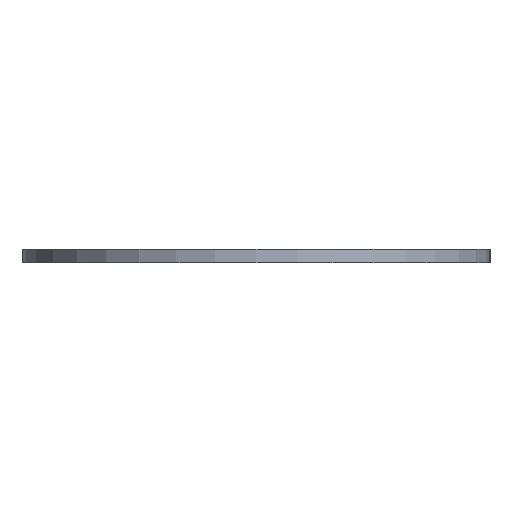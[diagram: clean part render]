
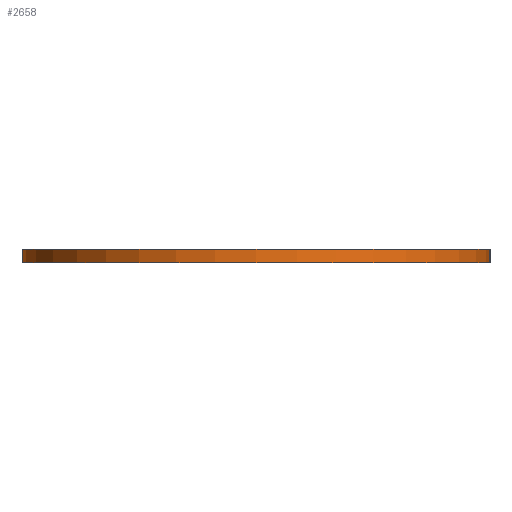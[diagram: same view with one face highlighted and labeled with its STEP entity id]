
A CAD part, left-side view. The second image highlights one B-rep face of the part: STEP entity #2658.
In plain terms, the highlighted cylindrical face has radius 54 mm (diameter 108 mm), a partial arc.
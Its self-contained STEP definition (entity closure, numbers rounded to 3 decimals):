
#60=CIRCLE('',#2832,54.);
#142=CIRCLE('',#2915,54.);
#162=CYLINDRICAL_SURFACE('',#2936,54.);
#570=ORIENTED_EDGE('',*,*,#1154,.F.);
#571=ORIENTED_EDGE('',*,*,#1198,.F.);
#572=ORIENTED_EDGE('',*,*,#995,.T.);
#573=ORIENTED_EDGE('',*,*,#1199,.T.);
#995=EDGE_CURVE('',#1338,#1337,#60,.T.);
#1154=EDGE_CURVE('',#1496,#1497,#142,.T.);
#1198=EDGE_CURVE('',#1338,#1496,#1678,.T.);
#1199=EDGE_CURVE('',#1337,#1497,#1679,.T.);
#1337=VERTEX_POINT('',#3954);
#1338=VERTEX_POINT('',#3956);
#1496=VERTEX_POINT('',#4273);
#1497=VERTEX_POINT('',#4275);
#1678=LINE('',#4362,#1896);
#1679=LINE('',#4364,#1897);
#1896=VECTOR('',#3512,1000.);
#1897=VECTOR('',#3515,1000.);
#2126=EDGE_LOOP('',(#570,#571,#572,#573));
#2424=FACE_BOUND('',#2126,.T.);
#2658=ADVANCED_FACE('',(#2424),#162,.T.);
#2832=AXIS2_PLACEMENT_3D('',#3955,#3193,#3194);
#2915=AXIS2_PLACEMENT_3D('',#4274,#3436,#3437);
#2936=AXIS2_PLACEMENT_3D('',#4363,#3513,#3514);
#3193=DIRECTION('',(0.,0.,1.));
#3194=DIRECTION('',(1.,0.,0.));
#3436=DIRECTION('',(0.,0.,1.));
#3437=DIRECTION('',(1.,0.,0.));
#3512=DIRECTION('',(0.,0.,1.));
#3513=DIRECTION('',(0.,0.,1.));
#3514=DIRECTION('',(1.,0.,0.));
#3515=DIRECTION('',(0.,0.,1.));
#3954=CARTESIAN_POINT('',(-400.,-54.,-3.));
#3955=CARTESIAN_POINT('',(-400.,0.,-3.));
#3956=CARTESIAN_POINT('',(-400.,54.,-3.));
#4273=CARTESIAN_POINT('',(-400.,54.,0.));
#4274=CARTESIAN_POINT('',(-400.,0.,0.));
#4275=CARTESIAN_POINT('',(-400.,-54.,0.));
#4362=CARTESIAN_POINT('',(-400.,54.,-3.));
#4363=CARTESIAN_POINT('',(-400.,0.,-3.));
#4364=CARTESIAN_POINT('',(-400.,-54.,-3.));
